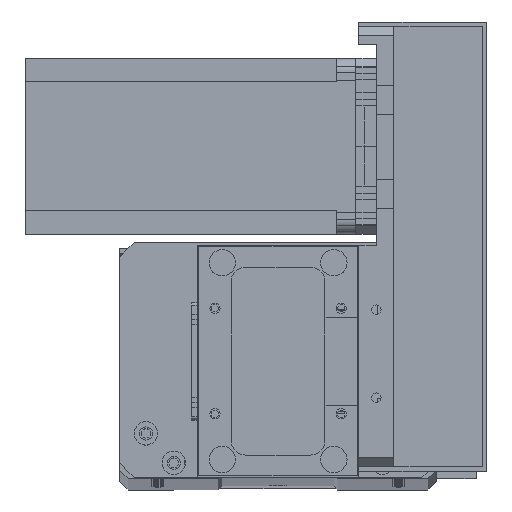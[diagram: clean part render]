
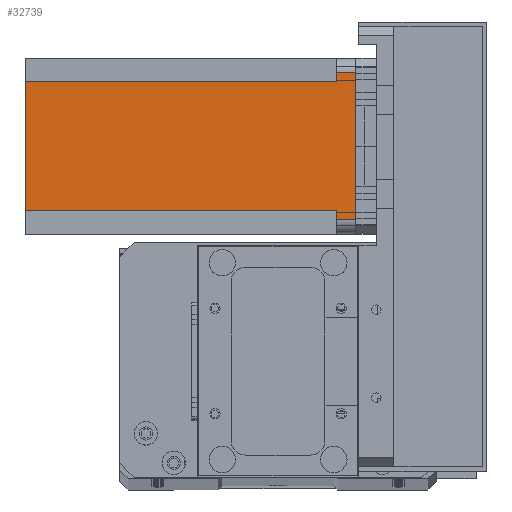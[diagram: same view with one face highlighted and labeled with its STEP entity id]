
A CAD part, top view. The second image highlights one B-rep face of the part: STEP entity #32739.
In plain terms, the highlighted planar face has unit normal (0, 0, 1) as drawn and (0, 1, 0) by its records, which use the part's own axes.
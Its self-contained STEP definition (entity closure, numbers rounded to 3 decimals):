
#201 = VECTOR ( 'NONE', #14392, 1000. ) ;
#1168 = ORIENTED_EDGE ( 'NONE', *, *, #23957, .F. ) ;
#1170 = VERTEX_POINT ( 'NONE', #4429 ) ;
#1599 = FACE_OUTER_BOUND ( 'NONE', #23422, .T. ) ;
#1643 = VECTOR ( 'NONE', #14833, 1000. ) ;
#1716 = AXIS2_PLACEMENT_3D ( 'NONE', #17959, #2713, #20529 ) ;
#2255 = ORIENTED_EDGE ( 'NONE', *, *, #21592, .T. ) ;
#2444 = LINE ( 'NONE', #12250, #1643 ) ;
#2471 = EDGE_CURVE ( 'NONE', #23296, #20572, #7744, .T. ) ;
#2713 = DIRECTION ( 'NONE',  ( 0., 1., 0. ) ) ;
#3496 = DIRECTION ( 'NONE',  ( 0., 0., -1. ) ) ;
#3780 = DIRECTION ( 'NONE',  ( -1., 0., 0. ) ) ;
#3823 = VECTOR ( 'NONE', #31904, 1000. ) ;
#4429 = CARTESIAN_POINT ( 'NONE',  ( 8., 60., -112.5 ) ) ;
#4608 = VECTOR ( 'NONE', #14021, 1000. ) ;
#4731 = CARTESIAN_POINT ( 'NONE',  ( 52., 60., -112.5 ) ) ;
#5352 = CARTESIAN_POINT ( 'NONE',  ( 8., 60., -6.5 ) ) ;
#5933 = CARTESIAN_POINT ( 'NONE',  ( 5., 60., -6.5 ) ) ;
#6426 = CARTESIAN_POINT ( 'NONE',  ( 52., 60., -6.5 ) ) ;
#6518 = VERTEX_POINT ( 'NONE', #24848 ) ;
#7156 = DIRECTION ( 'NONE',  ( 0., 0., 1. ) ) ;
#7344 = VERTEX_POINT ( 'NONE', #32405 ) ;
#7744 = LINE ( 'NONE', #5352, #201 ) ;
#8423 = CARTESIAN_POINT ( 'NONE',  ( 8., 60., -6.5 ) ) ;
#9608 = CARTESIAN_POINT ( 'NONE',  ( 52., 60., -112.5 ) ) ;
#10055 = ORIENTED_EDGE ( 'NONE', *, *, #24248, .T. ) ;
#10584 = LINE ( 'NONE', #6426, #3823 ) ;
#12250 = CARTESIAN_POINT ( 'NONE',  ( 5., 60., -112.5 ) ) ;
#12594 = ORIENTED_EDGE ( 'NONE', *, *, #2471, .T. ) ;
#13512 = VECTOR ( 'NONE', #7156, 1000. ) ;
#14021 = DIRECTION ( 'NONE',  ( 0., 0., -1. ) ) ;
#14086 = CARTESIAN_POINT ( 'NONE',  ( 55., 60., 0. ) ) ;
#14134 = EDGE_CURVE ( 'NONE', #27995, #1170, #21019, .T. ) ;
#14392 = DIRECTION ( 'NONE',  ( -1., 0., 0. ) ) ;
#14833 = DIRECTION ( 'NONE',  ( 0., 0., 1. ) ) ;
#16185 = EDGE_CURVE ( 'NONE', #7344, #26860, #10584, .T. ) ;
#16513 = ORIENTED_EDGE ( 'NONE', *, *, #16185, .F. ) ;
#16857 = LINE ( 'NONE', #29220, #29540 ) ;
#17742 = CARTESIAN_POINT ( 'NONE',  ( 55., 60., -6.5 ) ) ;
#17959 = CARTESIAN_POINT ( 'NONE',  ( 0., 60., -112.5 ) ) ;
#20279 = EDGE_CURVE ( 'NONE', #27995, #7344, #21059, .T. ) ;
#20529 = DIRECTION ( 'NONE',  ( 0., 0., 1. ) ) ;
#20572 = VERTEX_POINT ( 'NONE', #5933 ) ;
#20986 = CARTESIAN_POINT ( 'NONE',  ( 0., 60., -112.5 ) ) ;
#21019 = LINE ( 'NONE', #20986, #28552 ) ;
#21059 = LINE ( 'NONE', #4731, #13512 ) ;
#21592 = EDGE_CURVE ( 'NONE', #32459, #26860, #24133, .T. ) ;
#22536 = ORIENTED_EDGE ( 'NONE', *, *, #23373, .F. ) ;
#23147 = VECTOR ( 'NONE', #3496, 1000. ) ;
#23296 = VERTEX_POINT ( 'NONE', #8423 ) ;
#23373 = EDGE_CURVE ( 'NONE', #32459, #6518, #16857, .T. ) ;
#23422 = EDGE_LOOP ( 'NONE', ( #22536, #2255, #16513, #27246, #32242, #1168, #12594, #10055 ) ) ;
#23851 = CARTESIAN_POINT ( 'NONE',  ( 8., 60., -112.5 ) ) ;
#23957 = EDGE_CURVE ( 'NONE', #23296, #1170, #30683, .T. ) ;
#24133 = LINE ( 'NONE', #29216, #4608 ) ;
#24248 = EDGE_CURVE ( 'NONE', #20572, #6518, #2444, .T. ) ;
#24848 = CARTESIAN_POINT ( 'NONE',  ( 5., 60., 0. ) ) ;
#26860 = VERTEX_POINT ( 'NONE', #17742 ) ;
#27246 = ORIENTED_EDGE ( 'NONE', *, *, #20279, .F. ) ;
#27995 = VERTEX_POINT ( 'NONE', #9608 ) ;
#28524 = DIRECTION ( 'NONE',  ( -1., 0., 0. ) ) ;
#28552 = VECTOR ( 'NONE', #28524, 1000. ) ;
#29216 = CARTESIAN_POINT ( 'NONE',  ( 55., 60., -112.5 ) ) ;
#29220 = CARTESIAN_POINT ( 'NONE',  ( 0., 60., 0. ) ) ;
#29540 = VECTOR ( 'NONE', #3780, 1000. ) ;
#30591 = PLANE ( 'NONE',  #1716 ) ;
#30683 = LINE ( 'NONE', #23851, #23147 ) ;
#31904 = DIRECTION ( 'NONE',  ( 1., 0., 0. ) ) ;
#32242 = ORIENTED_EDGE ( 'NONE', *, *, #14134, .T. ) ;
#32405 = CARTESIAN_POINT ( 'NONE',  ( 52., 60., -6.5 ) ) ;
#32459 = VERTEX_POINT ( 'NONE', #14086 ) ;
#32739 = ADVANCED_FACE ( 'NONE', ( #1599 ), #30591, .T. ) ;
